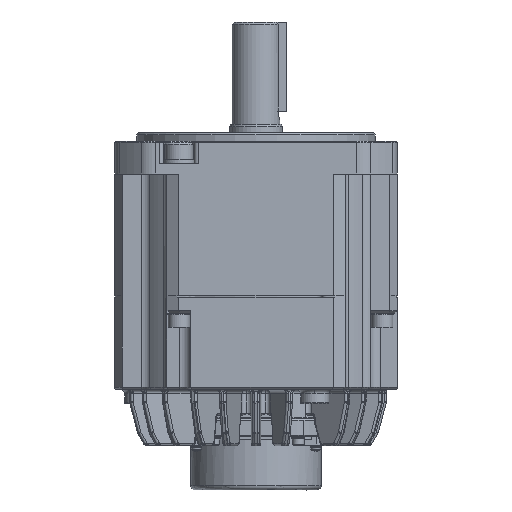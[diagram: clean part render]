
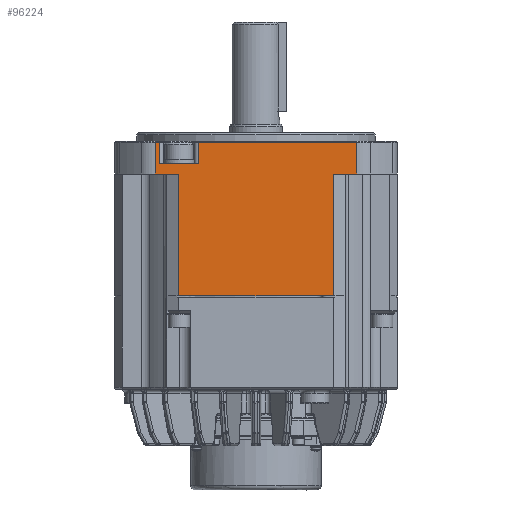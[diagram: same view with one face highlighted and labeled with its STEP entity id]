
A CAD part, front view. The second image highlights one B-rep face of the part: STEP entity #96224.
In plain terms, the highlighted planar face has unit normal (0, -1, 0).
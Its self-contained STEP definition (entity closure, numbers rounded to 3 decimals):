
#293 = CARTESIAN_POINT ( 'NONE',  ( -20.829, -79.939, -0.5 ) ) ;
#2762 = DIRECTION ( 'NONE',  ( 0., 0., -1. ) ) ;
#3192 = AXIS2_PLACEMENT_3D ( 'NONE', #126843, #41030, #127912 ) ;
#5013 = CARTESIAN_POINT ( 'NONE',  ( 41.171, -79.939, -71. ) ) ;
#5195 = CARTESIAN_POINT ( 'NONE',  ( -38.829, -79.939, -0.5 ) ) ;
#5847 = ORIENTED_EDGE ( 'NONE', *, *, #31229, .T. ) ;
#9777 = LINE ( 'NONE', #63448, #72037 ) ;
#10142 = ORIENTED_EDGE ( 'NONE', *, *, #34360, .T. ) ;
#10893 = ORIENTED_EDGE ( 'NONE', *, *, #33884, .F. ) ;
#11952 = CARTESIAN_POINT ( 'NONE',  ( -40.794, -79.939, -0.5 ) ) ;
#12137 = ORIENTED_EDGE ( 'NONE', *, *, #74392, .F. ) ;
#12545 = LINE ( 'NONE', #293, #74799 ) ;
#13613 = EDGE_CURVE ( 'NONE', #68422, #28767, #68745, .T. ) ;
#14501 = VERTEX_POINT ( 'NONE', #160654 ) ;
#14522 = LINE ( 'NONE', #11952, #142697 ) ;
#14780 = EDGE_CURVE ( 'NONE', #28767, #75049, #136411, .T. ) ;
#16040 = VERTEX_POINT ( 'NONE', #138042 ) ;
#16514 = VECTOR ( 'NONE', #2762, 1000. ) ;
#16715 = EDGE_CURVE ( 'NONE', #107466, #16040, #128330, .T. ) ;
#17174 = EDGE_CURVE ( 'NONE', #16040, #89967, #9777, .T. ) ;
#17620 = EDGE_CURVE ( 'NONE', #89967, #41564, #41638, .T. ) ;
#18539 = CARTESIAN_POINT ( 'NONE',  ( 15.653, -79.939, -0.3 ) ) ;
#19729 = EDGE_LOOP ( 'NONE', ( #27126, #5847, #70926, #10142, #10893, #145666, #99710, #148280, #159462, #143124, #160381, #12137, #88291, #156976, #92400 ) ) ;
#19833 = EDGE_CURVE ( 'NONE', #151695, #68422, #95764, .T. ) ;
#23516 = CARTESIAN_POINT ( 'NONE',  ( 52.136, -79.939, -71. ) ) ;
#25697 = EDGE_CURVE ( 'NONE', #31360, #14501, #85062, .T. ) ;
#25704 = CARTESIAN_POINT ( 'NONE',  ( -38.829, -79.939, -10. ) ) ;
#27126 = ORIENTED_EDGE ( 'NONE', *, *, #82208, .F. ) ;
#28425 = CARTESIAN_POINT ( 'NONE',  ( 41.171, -79.939, -15. ) ) ;
#28573 = PLANE ( 'NONE',  #3192 ) ;
#28767 = VERTEX_POINT ( 'NONE', #131716 ) ;
#31229 = EDGE_CURVE ( 'NONE', #61673, #142186, #133414, .T. ) ;
#31360 = VERTEX_POINT ( 'NONE', #77291 ) ;
#33564 = VERTEX_POINT ( 'NONE', #89609 ) ;
#33884 = EDGE_CURVE ( 'NONE', #41564, #33564, #12545, .T. ) ;
#34360 = EDGE_CURVE ( 'NONE', #47513, #33564, #142569, .T. ) ;
#36262 = EDGE_CURVE ( 'NONE', #47513, #142186, #140589, .T. ) ;
#36666 = DIRECTION ( 'NONE',  ( -1., 0., 0. ) ) ;
#37331 = VECTOR ( 'NONE', #156754, 1000. ) ;
#37435 = VECTOR ( 'NONE', #149635, 1000. ) ;
#41030 = DIRECTION ( 'NONE',  ( 0., 1., 0. ) ) ;
#41384 = CARTESIAN_POINT ( 'NONE',  ( 52.136, -79.939, -10. ) ) ;
#41564 = VERTEX_POINT ( 'NONE', #139371 ) ;
#41638 = LINE ( 'NONE', #41384, #136819 ) ;
#41953 = DIRECTION ( 'NONE',  ( 1., 0., 0. ) ) ;
#44863 = CARTESIAN_POINT ( 'NONE',  ( 52.136, -79.939, -15. ) ) ;
#47465 = VECTOR ( 'NONE', #92971, 1000. ) ;
#47513 = VERTEX_POINT ( 'NONE', #115231 ) ;
#55872 = VECTOR ( 'NONE', #36666, 1000. ) ;
#56403 = CARTESIAN_POINT ( 'NONE',  ( -28.04, -79.939, -10. ) ) ;
#56708 = VECTOR ( 'NONE', #94371, 1000. ) ;
#58149 = CARTESIAN_POINT ( 'NONE',  ( 52.136, -79.939, -10. ) ) ;
#60326 = DIRECTION ( 'NONE',  ( 1., 0., 0. ) ) ;
#61673 = VERTEX_POINT ( 'NONE', #28425 ) ;
#61952 = DIRECTION ( 'NONE',  ( 0., 0., 1. ) ) ;
#62331 = VECTOR ( 'NONE', #60326, 1000. ) ;
#63448 = CARTESIAN_POINT ( 'NONE',  ( 52.136, -79.939, -10. ) ) ;
#64839 = VECTOR ( 'NONE', #110405, 1000. ) ;
#68422 = VERTEX_POINT ( 'NONE', #132193 ) ;
#68745 = LINE ( 'NONE', #23516, #64839 ) ;
#70926 = ORIENTED_EDGE ( 'NONE', *, *, #36262, .F. ) ;
#72037 = VECTOR ( 'NONE', #88423, 1000. ) ;
#74392 = EDGE_CURVE ( 'NONE', #75049, #83356, #155695, .T. ) ;
#74708 = CARTESIAN_POINT ( 'NONE',  ( 52.136, -79.939, -0.5 ) ) ;
#74799 = VECTOR ( 'NONE', #148998, 1000. ) ;
#75049 = VERTEX_POINT ( 'NONE', #134211 ) ;
#75476 = CARTESIAN_POINT ( 'NONE',  ( 52.136, -79.939, -71. ) ) ;
#77291 = CARTESIAN_POINT ( 'NONE',  ( -38.829, -79.939, -0.3 ) ) ;
#82208 = EDGE_CURVE ( 'NONE', #61673, #151695, #115615, .T. ) ;
#83356 = VERTEX_POINT ( 'NONE', #149499 ) ;
#85062 = LINE ( 'NONE', #108400, #55872 ) ;
#85482 = VECTOR ( 'NONE', #131132, 1000. ) ;
#87165 = DIRECTION ( 'NONE',  ( 0., 0., -1. ) ) ;
#88291 = ORIENTED_EDGE ( 'NONE', *, *, #14780, .F. ) ;
#88423 = DIRECTION ( 'NONE',  ( 1., 0., 0. ) ) ;
#89609 = CARTESIAN_POINT ( 'NONE',  ( -20.829, -79.939, -0.3 ) ) ;
#89967 = VERTEX_POINT ( 'NONE', #56403 ) ;
#92400 = ORIENTED_EDGE ( 'NONE', *, *, #19833, .F. ) ;
#92971 = DIRECTION ( 'NONE',  ( -1., 0., 0. ) ) ;
#93345 = EDGE_CURVE ( 'NONE', #31360, #107466, #118405, .T. ) ;
#94371 = DIRECTION ( 'NONE',  ( -1., 0., 0. ) ) ;
#95764 = LINE ( 'NONE', #75476, #37435 ) ;
#96224 = ADVANCED_FACE ( 'NONE', ( #101657 ), #28573, .F. ) ;
#96551 = VECTOR ( 'NONE', #98493, 1000. ) ;
#98493 = DIRECTION ( 'NONE',  ( 1., 0., 0. ) ) ;
#99710 = ORIENTED_EDGE ( 'NONE', *, *, #17174, .F. ) ;
#101657 = FACE_OUTER_BOUND ( 'NONE', #19729, .T. ) ;
#107452 = CARTESIAN_POINT ( 'NONE',  ( 52.136, -79.939, -15. ) ) ;
#107466 = VERTEX_POINT ( 'NONE', #25704 ) ;
#108400 = CARTESIAN_POINT ( 'NONE',  ( -39.812, -79.939, -0.3 ) ) ;
#110405 = DIRECTION ( 'NONE',  ( -1., 0., 0. ) ) ;
#115231 = CARTESIAN_POINT ( 'NONE',  ( 52.136, -79.939, -0.3 ) ) ;
#115615 = LINE ( 'NONE', #151422, #16514 ) ;
#118405 = LINE ( 'NONE', #5195, #85482 ) ;
#119285 = VECTOR ( 'NONE', #87165, 1000. ) ;
#122870 = CARTESIAN_POINT ( 'NONE',  ( 65.521, -79.939, -15. ) ) ;
#126843 = CARTESIAN_POINT ( 'NONE',  ( 52.136, -79.939, -0.5 ) ) ;
#127912 = DIRECTION ( 'NONE',  ( 0., 0., 1. ) ) ;
#128330 = LINE ( 'NONE', #58149, #62331 ) ;
#131132 = DIRECTION ( 'NONE',  ( 0., 0., -1. ) ) ;
#131716 = CARTESIAN_POINT ( 'NONE',  ( -29.83, -79.939, -71. ) ) ;
#132193 = CARTESIAN_POINT ( 'NONE',  ( 5.671, -79.939, -71. ) ) ;
#133414 = LINE ( 'NONE', #122870, #96551 ) ;
#134211 = CARTESIAN_POINT ( 'NONE',  ( -29.83, -79.939, -15. ) ) ;
#136411 = LINE ( 'NONE', #144290, #37331 ) ;
#136819 = VECTOR ( 'NONE', #41953, 1000. ) ;
#138042 = CARTESIAN_POINT ( 'NONE',  ( -31.618, -79.939, -10. ) ) ;
#139371 = CARTESIAN_POINT ( 'NONE',  ( -20.829, -79.939, -10. ) ) ;
#140289 = EDGE_CURVE ( 'NONE', #83356, #14501, #14522, .T. ) ;
#140589 = LINE ( 'NONE', #74708, #119285 ) ;
#142186 = VERTEX_POINT ( 'NONE', #107452 ) ;
#142569 = LINE ( 'NONE', #18539, #47465 ) ;
#142697 = VECTOR ( 'NONE', #61952, 1000. ) ;
#143124 = ORIENTED_EDGE ( 'NONE', *, *, #25697, .T. ) ;
#144290 = CARTESIAN_POINT ( 'NONE',  ( -29.83, -79.939, -0.5 ) ) ;
#145666 = ORIENTED_EDGE ( 'NONE', *, *, #17620, .F. ) ;
#148280 = ORIENTED_EDGE ( 'NONE', *, *, #16715, .F. ) ;
#148998 = DIRECTION ( 'NONE',  ( 0., 0., 1. ) ) ;
#149499 = CARTESIAN_POINT ( 'NONE',  ( -40.794, -79.939, -15. ) ) ;
#149635 = DIRECTION ( 'NONE',  ( -1., 0., 0. ) ) ;
#151422 = CARTESIAN_POINT ( 'NONE',  ( 41.171, -79.939, -0.5 ) ) ;
#151695 = VERTEX_POINT ( 'NONE', #5013 ) ;
#155695 = LINE ( 'NONE', #44863, #56708 ) ;
#156754 = DIRECTION ( 'NONE',  ( 0., 0., 1. ) ) ;
#156976 = ORIENTED_EDGE ( 'NONE', *, *, #13613, .F. ) ;
#159462 = ORIENTED_EDGE ( 'NONE', *, *, #93345, .F. ) ;
#160381 = ORIENTED_EDGE ( 'NONE', *, *, #140289, .F. ) ;
#160654 = CARTESIAN_POINT ( 'NONE',  ( -40.794, -79.939, -0.3 ) ) ;
